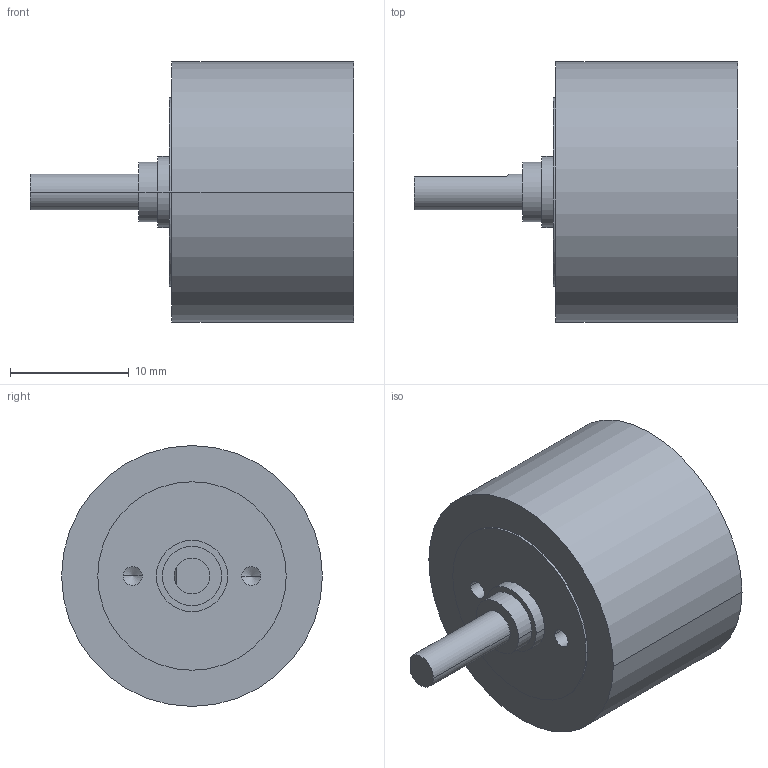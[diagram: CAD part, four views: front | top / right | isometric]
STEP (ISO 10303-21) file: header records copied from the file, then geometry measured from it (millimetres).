
FILE_DESCRIPTION((''),'2;1');
FILE_NAME('1118167','2010-02-04T',('MMAGMIBU'),(''),'PRO/ENGINEER BY PARAMETRIC TECHNOLOGY CORPORATION, 2009230','PRO/ENGINEER BY PARAMETRIC TECHNOLOGY CORPORATION, 2009230','');
FILE_SCHEMA(('CONFIG_CONTROL_DESIGN'));
Length unit declared in the file: millimetre
Products named in the file (1): 1118167
Bounding box: 27.3 x 22 x 22 mm (x, y, z)
Volume: 5223.3 mm3; surface area: 2147.8 mm2
Topology: 1 solids, 1 shells, 29 faces, 62 edges, 38 vertices
Faces by surface type: cylinder 16, plane 9, cone 4
Entity records: 807 total; most frequent: DIRECTION 146, CARTESIAN_POINT 130, ORIENTED_EDGE 116, AXIS2_PLACEMENT_3D 61, EDGE_CURVE 58, VERTEX_POINT 38, EDGE_LOOP 36, CIRCLE 32
